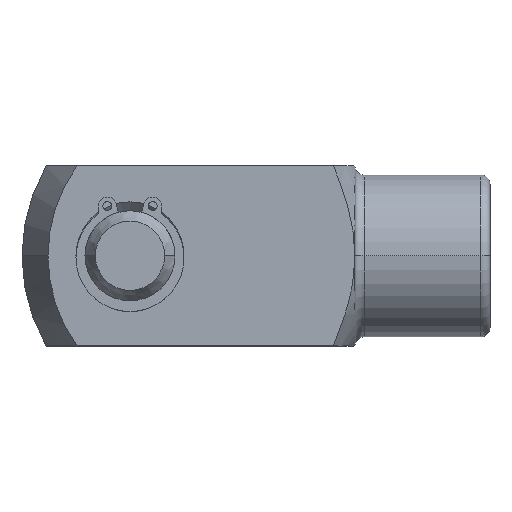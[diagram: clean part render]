
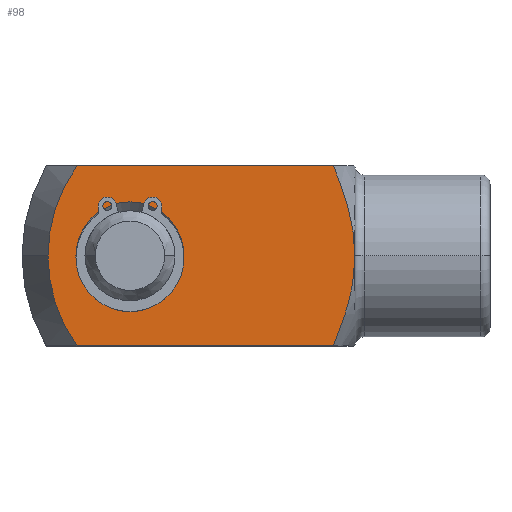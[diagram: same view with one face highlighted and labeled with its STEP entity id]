
A CAD part, top view. The second image highlights one B-rep face of the part: STEP entity #98.
In plain terms, the highlighted planar face has unit normal (0, 0, 1).
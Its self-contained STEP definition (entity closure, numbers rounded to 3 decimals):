
#67 = ORIENTED_EDGE ( 'NONE', *, *, #255, .T. ) ;
#71 = EDGE_CURVE ( 'NONE', #72, #73, #789, .T. ) ;
#72 = VERTEX_POINT ( 'NONE', #785 ) ;
#73 = VERTEX_POINT ( 'NONE', #784 ) ;
#74 = ORIENTED_EDGE ( 'NONE', *, *, #75, .T. ) ;
#75 = EDGE_CURVE ( 'NONE', #72, #251, #783, .T. ) ;
#76 = ORIENTED_EDGE ( 'NONE', *, *, #71, .F. ) ;
#77 = EDGE_LOOP ( 'NONE', ( #76, #74, #67, #112, #115, #95 ) ) ;
#78 = ORIENTED_EDGE ( 'NONE', *, *, #80, .T. ) ;
#79 = ORIENTED_EDGE ( 'NONE', *, *, #202, .T. ) ;
#80 = EDGE_CURVE ( 'NONE', #193, #185, #840, .T. ) ;
#95 = ORIENTED_EDGE ( 'NONE', *, *, #97, .F. ) ;
#97 = EDGE_CURVE ( 'NONE', #73, #223, #857, .T. ) ;
#98 = ADVANCED_FACE ( 'NONE', ( #859, #858 ), #856, .T. ) ;
#101 = EDGE_LOOP ( 'NONE', ( #79, #78 ) ) ;
#112 = ORIENTED_EDGE ( 'NONE', *, *, #114, .T. ) ;
#113 = VERTEX_POINT ( 'NONE', #885 ) ;
#114 = EDGE_CURVE ( 'NONE', #253, #113, #884, .T. ) ;
#115 = ORIENTED_EDGE ( 'NONE', *, *, #116, .F. ) ;
#116 = EDGE_CURVE ( 'NONE', #223, #113, #880, .T. ) ;
#185 = VERTEX_POINT ( 'NONE', #1049 ) ;
#193 = VERTEX_POINT ( 'NONE', #1032 ) ;
#202 = EDGE_CURVE ( 'NONE', #185, #193, #1075, .T. ) ;
#223 = VERTEX_POINT ( 'NONE', #1097 ) ;
#251 = VERTEX_POINT ( 'NONE', #1158 ) ;
#253 = VERTEX_POINT ( 'NONE', #1157 ) ;
#255 = EDGE_CURVE ( 'NONE', #251, #253, #1156, .T. ) ;
#779 = DIRECTION ( 'NONE',  ( 1., 0., 0. ) ) ;
#780 = DIRECTION ( 'NONE',  ( 0., 0., 1. ) ) ;
#781 = CARTESIAN_POINT ( 'NONE',  ( -16., 0., 5. ) ) ;
#782 = AXIS2_PLACEMENT_3D ( 'NONE', #781, #780, #779 ) ;
#783 = CIRCLE ( 'NONE', #782, 8.557 ) ;
#784 = CARTESIAN_POINT ( 'NONE',  ( -8.696, 5., 5. ) ) ;
#785 = CARTESIAN_POINT ( 'NONE',  ( -22.944, 5., 5. ) ) ;
#786 = DIRECTION ( 'NONE',  ( 1., 0., 0. ) ) ;
#787 = VECTOR ( 'NONE', #786, 1000. ) ;
#788 = CARTESIAN_POINT ( 'NONE',  ( -26., 5., 5. ) ) ;
#789 = LINE ( 'NONE', #788, #787 ) ;
#836 = DIRECTION ( 'NONE',  ( 1., 0., 0. ) ) ;
#837 = DIRECTION ( 'NONE',  ( 0., 0., -1. ) ) ;
#838 = CARTESIAN_POINT ( 'NONE',  ( -20., 0., 5. ) ) ;
#839 = AXIS2_PLACEMENT_3D ( 'NONE', #838, #837, #836 ) ;
#840 = CIRCLE ( 'NONE', #839, 3. ) ;
#842 = DIRECTION ( 'NONE',  ( 1., 0., 0. ) ) ;
#843 = CARTESIAN_POINT ( 'NONE',  ( -7.5, 0., 5. ) ) ;
#844 = CARTESIAN_POINT ( 'NONE',  ( -7.5, 0.217, 5. ) ) ;
#845 = CARTESIAN_POINT ( 'NONE',  ( -7.508, 0.436, 5. ) ) ;
#846 = CARTESIAN_POINT ( 'NONE',  ( -7.541, 0.867, 5. ) ) ;
#847 = CARTESIAN_POINT ( 'NONE',  ( -7.564, 1.082, 5. ) ) ;
#848 = CARTESIAN_POINT ( 'NONE',  ( -7.657, 1.72, 5. ) ) ;
#849 = CARTESIAN_POINT ( 'NONE',  ( -7.746, 2.139, 5. ) ) ;
#850 = CARTESIAN_POINT ( 'NONE',  ( -8.073, 3.385, 5. ) ) ;
#851 = CARTESIAN_POINT ( 'NONE',  ( -8.37, 4.202, 5. ) ) ;
#852 = CARTESIAN_POINT ( 'NONE',  ( -8.696, 5., 5. ) ) ;
#853 = DIRECTION ( 'NONE',  ( 0., 0., 1. ) ) ;
#854 = CARTESIAN_POINT ( 'NONE',  ( -26., -5., 5. ) ) ;
#855 = AXIS2_PLACEMENT_3D ( 'NONE', #854, #853, #842 ) ;
#856 = PLANE ( 'NONE',  #855 ) ;
#857 = B_SPLINE_CURVE_WITH_KNOTS ( 'NONE', 3,
 ( #852, #851, #850, #849, #848, #847, #846, #845, #844, #843 ),
 .UNSPECIFIED., .F., .F.,
 ( 4, 2, 2, 2, 4 ),
 ( 0.015, 0.018, 0.019, 0.02, 0.02 ),
 .UNSPECIFIED. ) ;
#858 = FACE_OUTER_BOUND ( 'NONE', #77, .T. ) ;
#859 = FACE_BOUND ( 'NONE', #101, .T. ) ;
#872 = CARTESIAN_POINT ( 'NONE',  ( -8.696, -5., 5. ) ) ;
#873 = CARTESIAN_POINT ( 'NONE',  ( -8.369, -4.199, 5. ) ) ;
#874 = CARTESIAN_POINT ( 'NONE',  ( -8.072, -3.381, 5. ) ) ;
#875 = CARTESIAN_POINT ( 'NONE',  ( -7.636, -1.719, 5. ) ) ;
#876 = CARTESIAN_POINT ( 'NONE',  ( -7.5, -0.873, 5. ) ) ;
#877 = CARTESIAN_POINT ( 'NONE',  ( -7.5, 0., 5. ) ) ;
#880 = B_SPLINE_CURVE_WITH_KNOTS ( 'NONE', 3,
 ( #877, #876, #875, #874, #873, #872 ),
 .UNSPECIFIED., .F., .F.,
 ( 4, 2, 4 ),
 ( 0.02, 0.023, 0.025 ),
 .UNSPECIFIED. ) ;
#881 = DIRECTION ( 'NONE',  ( 1., 0., 0. ) ) ;
#882 = VECTOR ( 'NONE', #881, 1000. ) ;
#883 = CARTESIAN_POINT ( 'NONE',  ( -26., -5., 5. ) ) ;
#884 = LINE ( 'NONE', #883, #882 ) ;
#885 = CARTESIAN_POINT ( 'NONE',  ( -8.696, -5., 5. ) ) ;
#1032 = CARTESIAN_POINT ( 'NONE',  ( -23., 0., 5. ) ) ;
#1049 = CARTESIAN_POINT ( 'NONE',  ( -17., 0., 5. ) ) ;
#1071 = DIRECTION ( 'NONE',  ( 1., 0., 0. ) ) ;
#1072 = DIRECTION ( 'NONE',  ( 0., 0., -1. ) ) ;
#1073 = CARTESIAN_POINT ( 'NONE',  ( -20., 0., 5. ) ) ;
#1074 = AXIS2_PLACEMENT_3D ( 'NONE', #1073, #1072, #1071 ) ;
#1075 = CIRCLE ( 'NONE', #1074, 3. ) ;
#1097 = CARTESIAN_POINT ( 'NONE',  ( -7.5, 0., 5. ) ) ;
#1152 = DIRECTION ( 'NONE',  ( 1., 0., 0. ) ) ;
#1153 = DIRECTION ( 'NONE',  ( 0., 0., 1. ) ) ;
#1154 = CARTESIAN_POINT ( 'NONE',  ( -16., 0., 5. ) ) ;
#1155 = AXIS2_PLACEMENT_3D ( 'NONE', #1154, #1153, #1152 ) ;
#1156 = CIRCLE ( 'NONE', #1155, 8.557 ) ;
#1157 = CARTESIAN_POINT ( 'NONE',  ( -22.944, -5., 5. ) ) ;
#1158 = CARTESIAN_POINT ( 'NONE',  ( -24.557, 0., 5. ) ) ;
